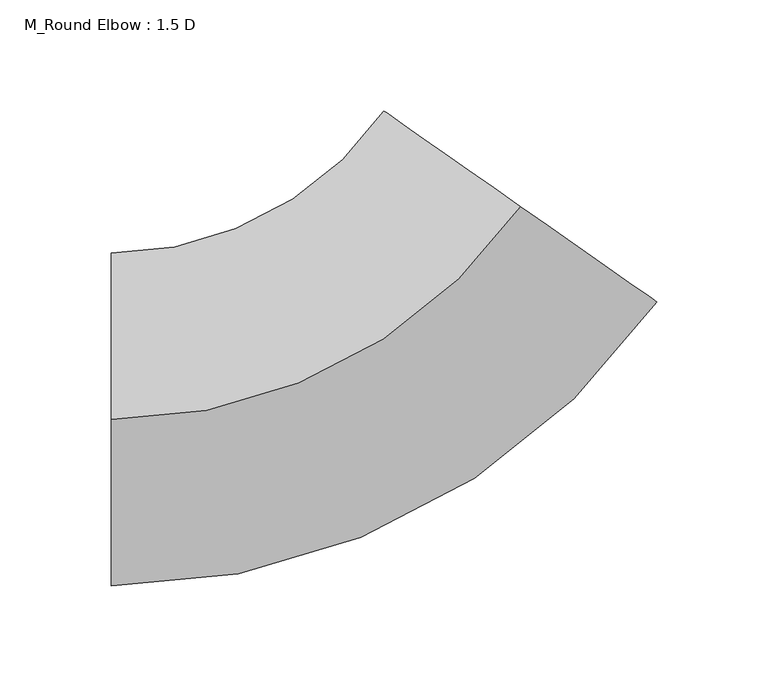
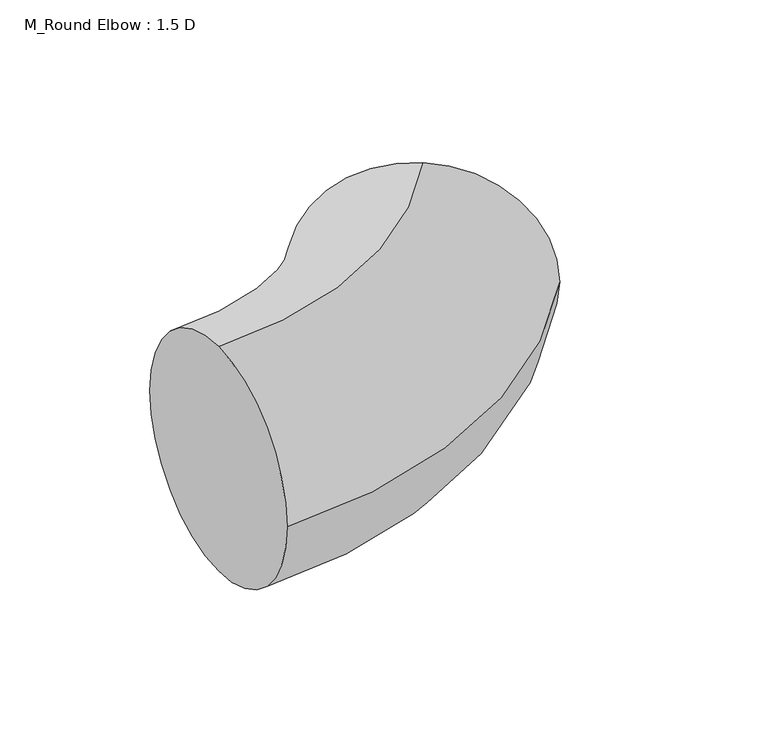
"""IFC4 building model written with IfcOpenShell, lengths in millimetres: duct fitting geometry, M_Round Elbow : 1.5 D."""

from ifc_helpers import new_model, si_unit, point, frame, origin, place, context, project, spatial, circle_curve, ellipse_curve, trimmed, source, transform, mapped, element, save
from ifc_brep_helpers import plane_surface, revolved_surface, advanced_brep


def m_round_elbow_1_5_d_65ff754b(model_context):
    return source(origin(), model_context, "Body", "AdvancedBrep", [
        advanced_brep(
        [(-117.1275864, 0.0, 75.0), (-117.1275864, 75.0, 0.0), (-117.1275864, 0.0, -75.0), (-117.1275864, -75.0, 0.0), (67.1816236, 95.9453018, 75.0), (128.6180269, 52.9270691, 0.0), (67.1816236, 95.9453018, -75.0), (5.7452203, 138.9635346, 0.0)],
        [
            (0, 1, circle_curve(frame((-117.1275864, 0.0, 0.0), z_axis=(-1.0, 0.0, 0.0), x_axis=(0.0, 1.0, 0.0)), 75.0)),
            (1, 2, circle_curve(frame((-117.1275864, 0.0, 0.0), z_axis=(-1.0, 0.0, 0.0), x_axis=(0.0, 1.0, 0.0)), 75.0)),
            (2, 3, circle_curve(frame((-117.1275864, 0.0, 0.0), z_axis=(-1.0, 0.0, 0.0), x_axis=(0.0, 1.0, 0.0)), 75.0)),
            (3, 0, circle_curve(frame((-117.1275864, 0.0, 0.0), z_axis=(-1.0, 0.0, 0.0), x_axis=(0.0, 1.0, 0.0)), 75.0)),
            (4, 5, circle_curve(frame((67.1816236, 95.9453018, 0.0), z_axis=(0.5735764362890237, 0.8191520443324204, 0.0), x_axis=(-0.8191520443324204, 0.5735764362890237, 0.0)), 75.0)),
            (5, 6, circle_curve(frame((67.1816236, 95.9453018, 0.0), z_axis=(0.5735764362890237, 0.8191520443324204, 0.0), x_axis=(-0.8191520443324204, 0.5735764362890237, 0.0)), 75.0)),
            (6, 7, circle_curve(frame((67.1816236, 95.9453018, 0.0), z_axis=(0.5735764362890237, 0.8191520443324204, 0.0), x_axis=(-0.8191520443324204, 0.5735764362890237, 0.0)), 75.0)),
            (7, 4, circle_curve(frame((67.1816236, 95.9453018, 0.0), z_axis=(0.5735764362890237, 0.8191520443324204, 0.0), x_axis=(-0.8191520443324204, 0.5735764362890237, 0.0)), 75.0)),
            (7, 1, circle_curve(frame((-117.1275864, 225.0, 0.0), z_axis=(0.0, 0.0, -1.0), x_axis=(0.0, -1.0, 0.0)), 150.0)),
            (0, 4, circle_curve(frame((-117.1275864, 225.0, 75.0), z_axis=(0.0, 0.0, 1.0), x_axis=(0.0, -1.0, 0.0)), 225.0)),
            (6, 2, circle_curve(frame((-117.1275864, 225.0, -75.0), z_axis=(0.0, 0.0, -1.0), x_axis=(0.0, -1.0, 0.0)), 225.0)),
            (5, 3, circle_curve(frame((-117.1275864, 225.0, 0.0), z_axis=(0.0, 0.0, -1.0), x_axis=(0.0, -1.0, 0.0)), 300.0)),
        ],
        [
            plane_surface(frame((-117.1275864, 0.0, 0.0), z_axis=(-1.0, 0.0, 0.0), x_axis=(0.0, 0.0, 1.0))),
            plane_surface(frame((67.1816236, 95.9453018, 0.0), z_axis=(0.5735764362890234, 0.8191520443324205, 0.0), x_axis=(0.0, 0.0, 1.0))),
            revolved_surface(trimmed(ellipse_curve(frame((-117.1275864, 0.0, 0.0), z_axis=(-1.0, 0.0, 0.0), x_axis=(0.0, 1.0, 0.0)), 75.0, 75.0), [point((-117.1275864, 0.0, 75.0))], [point((-117.1275864, 75.0, 0.0))], True, "CARTESIAN"), (-117.1275864, 225.0, 0.0), (0.0, 0.0, 1.0)),
            revolved_surface(trimmed(ellipse_curve(frame((-117.1275864, 0.0, 0.0), z_axis=(-1.0, 0.0, 0.0), x_axis=(0.0, 1.0, 0.0)), 75.0, 75.0), [point((-117.1275864, 75.0, 0.0))], [point((-117.1275864, 0.0, -75.0))], True, "CARTESIAN"), (-117.1275864, 225.0, 0.0), (0.0, 0.0, 1.0)),
            revolved_surface(trimmed(ellipse_curve(frame((-117.1275864, 0.0, 0.0), z_axis=(-1.0, 0.0, 0.0), x_axis=(0.0, 1.0, 0.0)), 75.0, 75.0), [point((-117.1275864, 0.0, -75.0))], [point((-117.1275864, -75.0, 0.0))], True, "CARTESIAN"), (-117.1275864, 225.0, 0.0), (0.0, 0.0, 1.0)),
            revolved_surface(trimmed(ellipse_curve(frame((-117.1275864, 0.0, 0.0), z_axis=(-1.0, 0.0, 0.0), x_axis=(0.0, 1.0, 0.0)), 75.0, 75.0), [point((-117.1275864, -75.0, 0.0))], [point((-117.1275864, 0.0, 75.0))], True, "CARTESIAN"), (-117.1275864, 225.0, 0.0), (0.0, 0.0, 1.0)),
        ],
        [
            (0, [[1, 2, 3, 4]]),
            (1, [[5, 6, 7, 8]]),
            (2, [[9, -1, 10, -8]]),
            (3, [[11, -2, -9, -7]]),
            (4, [[12, -3, -11, -6]]),
            (5, [[-10, -4, -12, -5]]),
        ],
    ),
        advanced_brep(
        [(-117.1275864, 0.0, 75.0), (-117.1275864, 75.0, 0.0), (-117.1275864, 0.0, -75.0), (-117.1275864, -75.0, 0.0), (67.1816236, 95.9453018, 75.0), (128.6180269, 52.9270691, 0.0), (67.1816236, 95.9453018, -75.0), (5.7452203, 138.9635346, 0.0)],
        [
            (0, 1, circle_curve(frame((-117.1275864, 0.0, 0.0), z_axis=(-1.0, 0.0, 0.0), x_axis=(0.0, 1.0, 0.0)), 75.0)),
            (1, 2, circle_curve(frame((-117.1275864, 0.0, 0.0), z_axis=(-1.0, 0.0, 0.0), x_axis=(0.0, 1.0, 0.0)), 75.0)),
            (2, 3, circle_curve(frame((-117.1275864, 0.0, 0.0), z_axis=(-1.0, 0.0, 0.0), x_axis=(0.0, 1.0, 0.0)), 75.0)),
            (3, 0, circle_curve(frame((-117.1275864, 0.0, 0.0), z_axis=(-1.0, 0.0, 0.0), x_axis=(0.0, 1.0, 0.0)), 75.0)),
            (4, 5, circle_curve(frame((67.1816236, 95.9453018, 0.0), z_axis=(0.5735764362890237, 0.8191520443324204, 0.0), x_axis=(-0.8191520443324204, 0.5735764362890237, 0.0)), 75.0)),
            (5, 6, circle_curve(frame((67.1816236, 95.9453018, 0.0), z_axis=(0.5735764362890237, 0.8191520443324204, 0.0), x_axis=(-0.8191520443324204, 0.5735764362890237, 0.0)), 75.0)),
            (6, 7, circle_curve(frame((67.1816236, 95.9453018, 0.0), z_axis=(0.5735764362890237, 0.8191520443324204, 0.0), x_axis=(-0.8191520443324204, 0.5735764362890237, 0.0)), 75.0)),
            (7, 4, circle_curve(frame((67.1816236, 95.9453018, 0.0), z_axis=(0.5735764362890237, 0.8191520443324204, 0.0), x_axis=(-0.8191520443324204, 0.5735764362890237, 0.0)), 75.0)),
            (7, 1, circle_curve(frame((-117.1275864, 225.0, 0.0), z_axis=(0.0, 0.0, -1.0), x_axis=(0.0, -1.0, 0.0)), 150.0)),
            (0, 4, circle_curve(frame((-117.1275864, 225.0, 75.0), z_axis=(0.0, 0.0, 1.0), x_axis=(0.0, -1.0, 0.0)), 225.0)),
            (6, 2, circle_curve(frame((-117.1275864, 225.0, -75.0), z_axis=(0.0, 0.0, -1.0), x_axis=(0.0, -1.0, 0.0)), 225.0)),
            (5, 3, circle_curve(frame((-117.1275864, 225.0, 0.0), z_axis=(0.0, 0.0, -1.0), x_axis=(0.0, -1.0, 0.0)), 300.0)),
        ],
        [
            plane_surface(frame((-117.1275864, 0.0, 0.0), z_axis=(-1.0, 0.0, 0.0), x_axis=(0.0, 0.0, 1.0))),
            plane_surface(frame((67.1816236, 95.9453018, 0.0), z_axis=(0.5735764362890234, 0.8191520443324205, 0.0), x_axis=(0.0, 0.0, 1.0))),
            revolved_surface(trimmed(ellipse_curve(frame((-117.1275864, 0.0, 0.0), z_axis=(-1.0, 0.0, 0.0), x_axis=(0.0, 1.0, 0.0)), 75.0, 75.0), [point((-117.1275864, 0.0, 75.0))], [point((-117.1275864, 75.0, 0.0))], True, "CARTESIAN"), (-117.1275864, 225.0, 0.0), (0.0, 0.0, 1.0)),
            revolved_surface(trimmed(ellipse_curve(frame((-117.1275864, 0.0, 0.0), z_axis=(-1.0, 0.0, 0.0), x_axis=(0.0, 1.0, 0.0)), 75.0, 75.0), [point((-117.1275864, 75.0, 0.0))], [point((-117.1275864, 0.0, -75.0))], True, "CARTESIAN"), (-117.1275864, 225.0, 0.0), (0.0, 0.0, 1.0)),
            revolved_surface(trimmed(ellipse_curve(frame((-117.1275864, 0.0, 0.0), z_axis=(-1.0, 0.0, 0.0), x_axis=(0.0, 1.0, 0.0)), 75.0, 75.0), [point((-117.1275864, 0.0, -75.0))], [point((-117.1275864, -75.0, 0.0))], True, "CARTESIAN"), (-117.1275864, 225.0, 0.0), (0.0, 0.0, 1.0)),
            revolved_surface(trimmed(ellipse_curve(frame((-117.1275864, 0.0, 0.0), z_axis=(-1.0, 0.0, 0.0), x_axis=(0.0, 1.0, 0.0)), 75.0, 75.0), [point((-117.1275864, -75.0, 0.0))], [point((-117.1275864, 0.0, 75.0))], True, "CARTESIAN"), (-117.1275864, 225.0, 0.0), (0.0, 0.0, 1.0)),
        ],
        [
            (0, [[1, 2, 3, 4]]),
            (1, [[5, 6, 7, 8]]),
            (2, [[9, -1, 10, -8]]),
            (3, [[11, -2, -9, -7]]),
            (4, [[12, -3, -11, -6]]),
            (5, [[-10, -4, -12, -5]]),
        ],
    ),
        advanced_brep(
        [(-117.1275864, 0.0, 75.0), (-117.1275864, 75.0, 0.0), (-117.1275864, 0.0, -75.0), (-117.1275864, -75.0, 0.0), (67.1816236, 95.9453018, 75.0), (128.6180269, 52.9270691, 0.0), (67.1816236, 95.9453018, -75.0), (5.7452203, 138.9635346, 0.0)],
        [
            (0, 1, circle_curve(frame((-117.1275864, 0.0, 0.0), z_axis=(-1.0, 0.0, 0.0), x_axis=(0.0, 1.0, 0.0)), 75.0)),
            (1, 2, circle_curve(frame((-117.1275864, 0.0, 0.0), z_axis=(-1.0, 0.0, 0.0), x_axis=(0.0, 1.0, 0.0)), 75.0)),
            (2, 3, circle_curve(frame((-117.1275864, 0.0, 0.0), z_axis=(-1.0, 0.0, 0.0), x_axis=(0.0, 1.0, 0.0)), 75.0)),
            (3, 0, circle_curve(frame((-117.1275864, 0.0, 0.0), z_axis=(-1.0, 0.0, 0.0), x_axis=(0.0, 1.0, 0.0)), 75.0)),
            (4, 5, circle_curve(frame((67.1816236, 95.9453018, 0.0), z_axis=(0.5735764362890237, 0.8191520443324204, 0.0), x_axis=(-0.8191520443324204, 0.5735764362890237, 0.0)), 75.0)),
            (5, 6, circle_curve(frame((67.1816236, 95.9453018, 0.0), z_axis=(0.5735764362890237, 0.8191520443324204, 0.0), x_axis=(-0.8191520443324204, 0.5735764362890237, 0.0)), 75.0)),
            (6, 7, circle_curve(frame((67.1816236, 95.9453018, 0.0), z_axis=(0.5735764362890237, 0.8191520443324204, 0.0), x_axis=(-0.8191520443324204, 0.5735764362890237, 0.0)), 75.0)),
            (7, 4, circle_curve(frame((67.1816236, 95.9453018, 0.0), z_axis=(0.5735764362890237, 0.8191520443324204, 0.0), x_axis=(-0.8191520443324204, 0.5735764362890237, 0.0)), 75.0)),
            (7, 1, circle_curve(frame((-117.1275864, 225.0, 0.0), z_axis=(0.0, 0.0, -1.0), x_axis=(0.0, -1.0, 0.0)), 150.0)),
            (0, 4, circle_curve(frame((-117.1275864, 225.0, 75.0), z_axis=(0.0, 0.0, 1.0), x_axis=(0.0, -1.0, 0.0)), 225.0)),
            (6, 2, circle_curve(frame((-117.1275864, 225.0, -75.0), z_axis=(0.0, 0.0, -1.0), x_axis=(0.0, -1.0, 0.0)), 225.0)),
            (5, 3, circle_curve(frame((-117.1275864, 225.0, 0.0), z_axis=(0.0, 0.0, -1.0), x_axis=(0.0, -1.0, 0.0)), 300.0)),
        ],
        [
            plane_surface(frame((-117.1275864, 0.0, 0.0), z_axis=(-1.0, 0.0, 0.0), x_axis=(0.0, 0.0, 1.0))),
            plane_surface(frame((67.1816236, 95.9453018, 0.0), z_axis=(0.5735764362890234, 0.8191520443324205, 0.0), x_axis=(0.0, 0.0, 1.0))),
            revolved_surface(trimmed(ellipse_curve(frame((-117.1275864, 0.0, 0.0), z_axis=(-1.0, 0.0, 0.0), x_axis=(0.0, 1.0, 0.0)), 75.0, 75.0), [point((-117.1275864, 0.0, 75.0))], [point((-117.1275864, 75.0, 0.0))], True, "CARTESIAN"), (-117.1275864, 225.0, 0.0), (0.0, 0.0, 1.0)),
            revolved_surface(trimmed(ellipse_curve(frame((-117.1275864, 0.0, 0.0), z_axis=(-1.0, 0.0, 0.0), x_axis=(0.0, 1.0, 0.0)), 75.0, 75.0), [point((-117.1275864, 75.0, 0.0))], [point((-117.1275864, 0.0, -75.0))], True, "CARTESIAN"), (-117.1275864, 225.0, 0.0), (0.0, 0.0, 1.0)),
            revolved_surface(trimmed(ellipse_curve(frame((-117.1275864, 0.0, 0.0), z_axis=(-1.0, 0.0, 0.0), x_axis=(0.0, 1.0, 0.0)), 75.0, 75.0), [point((-117.1275864, 0.0, -75.0))], [point((-117.1275864, -75.0, 0.0))], True, "CARTESIAN"), (-117.1275864, 225.0, 0.0), (0.0, 0.0, 1.0)),
            revolved_surface(trimmed(ellipse_curve(frame((-117.1275864, 0.0, 0.0), z_axis=(-1.0, 0.0, 0.0), x_axis=(0.0, 1.0, 0.0)), 75.0, 75.0), [point((-117.1275864, -75.0, 0.0))], [point((-117.1275864, 0.0, 75.0))], True, "CARTESIAN"), (-117.1275864, 225.0, 0.0), (0.0, 0.0, 1.0)),
        ],
        [
            (0, [[1, 2, 3, 4]]),
            (1, [[5, 6, 7, 8]]),
            (2, [[9, -1, 10, -8]]),
            (3, [[11, -2, -9, -7]]),
            (4, [[12, -3, -11, -6]]),
            (5, [[-10, -4, -12, -5]]),
        ],
    ),
    ])


if __name__ == "__main__":
    model = new_model("IFC4")
    model_context = context("Model", 3, world=origin())
    ifc_project = project(units=[si_unit("LENGTHUNIT", "METRE", prefix="MILLI")], contexts=[model_context])
    site = spatial("IfcSite", under=ifc_project)
    building = spatial("IfcBuilding", under=site)
    placement = place(None, origin())
    m_round_elbow_1_5_d_shape = m_round_elbow_1_5_d_65ff754b(model_context)
    element("IfcDuctFitting", 1, ObjectType="M_Round Elbow : 1.5 D", at=placement, inside=building, context=model_context, shape_type="MappedRepresentation", body=[
        mapped(m_round_elbow_1_5_d_shape, transform((0.0, 0.0, 0.0), x_axis=(1.0, 0.0, 0.0), y_axis=(0.0, 1.0, 0.0), z_axis=(0.0, 0.0, 1.0))),
    ])
    save(model, "model.ifc")
